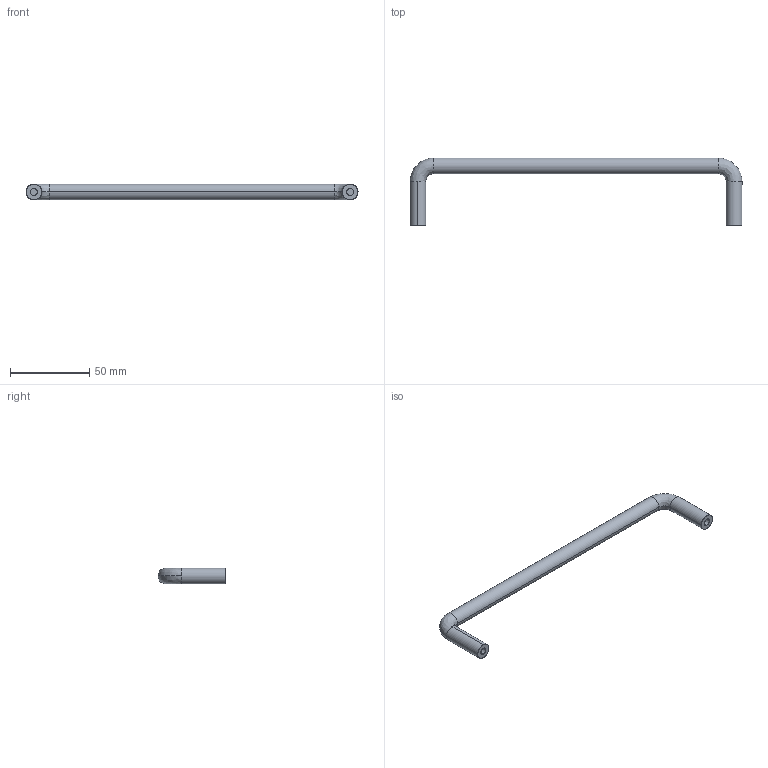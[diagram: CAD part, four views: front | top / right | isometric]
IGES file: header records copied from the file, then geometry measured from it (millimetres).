
Start section: SolidWorks IGES file using analytic representation for surfaces
Global section: file name: D:\由鑫國際內部資料\內部資料\3D圖檔\MS-742系列\742-200.IGS; native system: SolidWorks 2008; preprocessor: SolidWorks 2008; author: Administrator; date: 091201.132100; units: millimetre
Bounding box: 210 x 43 x 10 mm (x, y, z)
Surface area: 8898.3 mm2 (no closed solid volume)
Topology: 0 solids, 0 shells, 18 faces, 252 edges, 252 vertices
Faces by surface type: revolution 10, bspline 8
